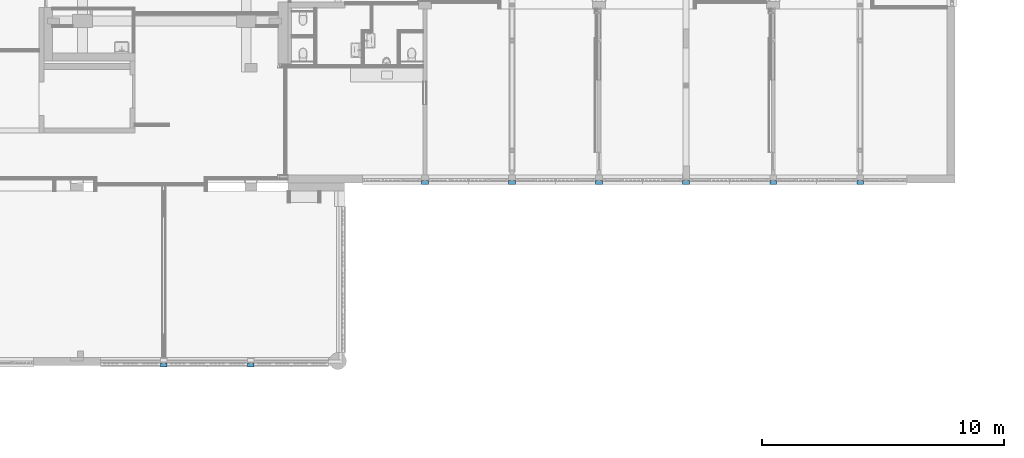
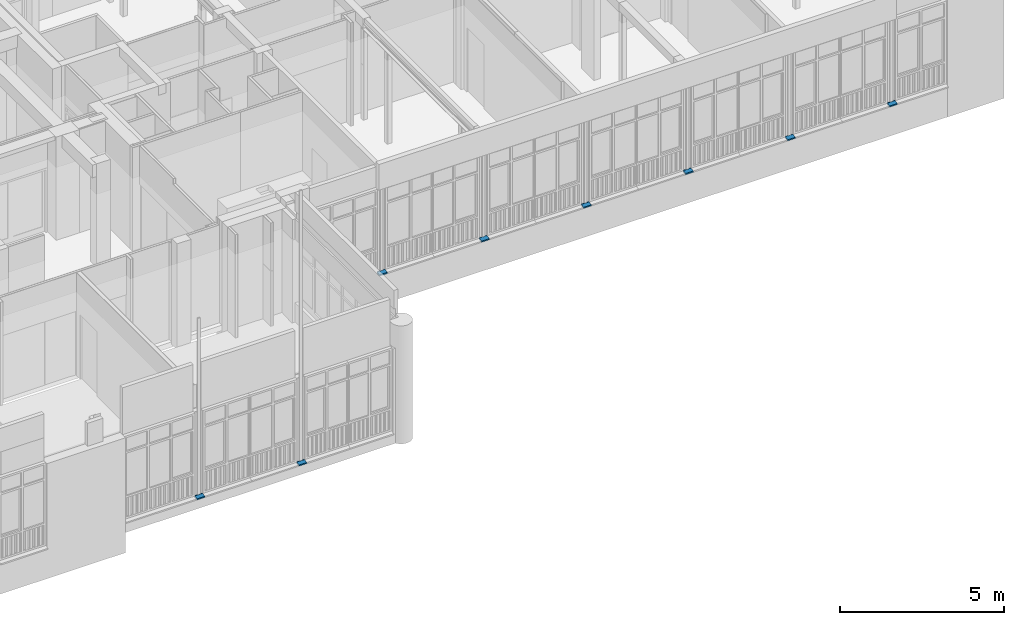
# One storey, part 69 of 135: 8 beams.
"""IFC2X3 building model written with IfcOpenShell, lengths in millimetres."""

from ifc_helpers import new_model, entity, si_unit, converted_unit, derived_unit, money_unit, direction, frame, origin_with_axes, place, context, subcontext, project, spatial, faceted_brep, material, type_object, element, save


model = new_model("IFC2X3")

# Units and contexts
model_context = context("Model", 3, precision=0.01, world=origin_with_axes(), true_north=direction((0.0, 1.0)))
body_context = subcontext(model_context, "Body", "Model", "MODEL_VIEW")
ifc_project = project(units=[si_unit("LENGTHUNIT", "METRE", prefix="MILLI"), si_unit("AREAUNIT", "SQUARE_METRE"), si_unit("VOLUMEUNIT", "CUBIC_METRE"), converted_unit("PLANEANGLEUNIT", "DEGREE", entity("IfcPlaneAngleMeasure", 0.0174532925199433), si_unit("PLANEANGLEUNIT", "RADIAN"), dimensions=[0, 0, 0, 0, 0, 0, 0]), money_unit("EUR"), converted_unit("TIMEUNIT", "Year", entity("IfcTimeMeasure", 31557600.0), si_unit("TIMEUNIT", "SECOND"), dimensions=[0, 0, 1, 0, 0, 0, 0]), si_unit("MASSUNIT", "GRAM", prefix="KILO"), si_unit("THERMODYNAMICTEMPERATUREUNIT", "DEGREE_CELSIUS"), si_unit("LUMINOUSINTENSITYUNIT", "LUMEN"), si_unit("ENERGYUNIT", "JOULE", prefix="MEGA"), derived_unit("THERMALCONDUCTANCEUNIT", [(si_unit("POWERUNIT", "WATT"), 1), (si_unit("LENGTHUNIT", "METRE"), -1), (si_unit("THERMODYNAMICTEMPERATUREUNIT", "KELVIN"), -1)]), derived_unit("SPECIFICHEATCAPACITYUNIT", [(si_unit("ENERGYUNIT", "JOULE"), 1), (si_unit("MASSUNIT", "GRAM", prefix="KILO"), -1), (si_unit("THERMODYNAMICTEMPERATUREUNIT", "KELVIN"), -1)]), derived_unit("MASSDENSITYUNIT", [(si_unit("MASSUNIT", "GRAM", prefix="KILO"), 1), (si_unit("VOLUMEUNIT", "CUBIC_METRE"), -1)])], contexts=[model_context])

# Site, building, storey
site_placement = place(None, origin_with_axes())
site = spatial("IfcSite", under=ifc_project, at=site_placement, Name="Site", CompositionType="ELEMENT")
building_placement = place(site_placement, origin_with_axes())
building = spatial("IfcBuilding", under=site, at=building_placement, Name="Naam gebouw", CompositionType="ELEMENT")
storey_placement = place(building_placement, origin_with_axes())
storey = spatial("IfcBuildingStorey", under=building, at=storey_placement, Name="Begane grond N", CompositionType="ELEMENT", Elevation=0.0)

# Beams
ifc_material = material(Name="Beton gewapend prefab")
beam_type = type_object("IfcBeamType", Name="Onderdorpel 155 x 80", PredefinedType="BEAM")
for number, where, z_axis, x_axis, name in (
    (1, (46662.49999999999, 10730.91242510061, 0.0), (0.0, 0.0, 1.0), (0.0, -1.0, 0.0), "_Balk-x"),
    (2, (50262.49999999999, 10730.91242510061, 0.0), (0.0, 0.0, 1.0), (0.0, -1.0, 0.0), "_Balk-x"),
):
    element("IfcBeam", number, at=place(storey_placement, frame(where, z_axis=z_axis, x_axis=x_axis)), inside=storey, type_object=beam_type, material=ifc_material, Name=name, ObjectType="BEAM", context=body_context, shape_type="Brep", body=[
        faceted_brep([(-35.00000000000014, 0.0, -79.99999999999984), (-35.00000000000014, 275.0000000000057, -79.99999999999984), (85.00000000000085, 275.0000000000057, -79.9999999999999), (85.00000000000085, 0.0, -79.9999999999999), (-35.00000000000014, 0.0, 0.0), (-35.00000000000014, 275.0000000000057, 0.0), (-19.99999999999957, 275.0000000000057, 0.0), (-20.00000000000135, 275.0000000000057, -9.99999999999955), (120.000000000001, 275.0000000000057, -34.99999999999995), (120.000000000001, 275.0000000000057, -79.9999999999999), (105.0000000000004, 275.0000000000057, -79.9999999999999), (102.0710678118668, 275.0000000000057, -72.92893218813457), (95.00000000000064, 275.0000000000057, -70.0000000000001), (87.92893218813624, 275.0000000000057, -72.92893218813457), (87.92893218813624, 0.0, -72.92893218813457), (95.00000000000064, 0.0, -70.0000000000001), (102.0710678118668, 0.0, -72.92893218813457), (105.0000000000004, 0.0, -79.9999999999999), (120.000000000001, 0.0, -79.9999999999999), (120.000000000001, 0.0, -34.99999999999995), (-20.00000000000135, 0.0, -9.99999999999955), (-19.99999999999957, 0.0, 0.0)], [[[0, 1, 2, 3]], [[4, 5, 1, 0]], [[2, 1, 5, 6, 7, 8, 9, 10, 11, 12, 13]], [[3, 2, 13, 14]], [[4, 0, 3, 14, 15, 16, 17, 18, 19, 20, 21]], [[21, 6, 5, 4]], [[20, 7, 6, 21]], [[19, 8, 7, 20]], [[18, 9, 8, 19]], [[17, 10, 9, 18]], [[16, 11, 10, 17]], [[15, 12, 11, 16]], [[14, 13, 12, 15]]]),
    ])
for number, where, z_axis, x_axis, name in (
    (3, (25062.4496505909, 3185.668707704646, 0.0), (0.0, 0.0, 1.0), (0.0, -1.0, 0.0), "_Balk-x"),
    (4, (28662.53780894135, 3185.668707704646, 0.0), (0.0, 0.0, 1.0), (0.0, -1.0, 0.0), "_Balk-x"),
):
    element("IfcBeam", number, at=place(storey_placement, frame(where, z_axis=z_axis, x_axis=x_axis)), inside=storey, type_object=beam_type, material=ifc_material, Name=name, ObjectType="BEAM", context=body_context, shape_type="Brep", body=[
        faceted_brep([(-35.00000000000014, 0.0, -79.99999999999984), (-35.00000000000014, 275.0000000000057, -79.99999999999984), (85.00000000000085, 275.0000000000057, -79.9999999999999), (85.00000000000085, 0.0, -79.9999999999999), (-35.00000000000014, 0.0, 0.0), (-35.00000000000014, 275.0000000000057, 0.0), (-20.00000000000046, 275.0000000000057, 0.0), (-20.00000000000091, 275.0000000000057, -9.99999999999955), (120.0000000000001, 275.0000000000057, -34.99999999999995), (120.0000000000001, 275.0000000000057, -79.9999999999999), (105.0000000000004, 275.0000000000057, -79.9999999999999), (102.0710678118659, 275.0000000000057, -72.92893218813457), (95.00000000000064, 275.0000000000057, -70.0000000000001), (87.92893218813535, 275.0000000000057, -72.92893218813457), (87.92893218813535, 0.0, -72.92893218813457), (95.00000000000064, 0.0, -70.0000000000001), (102.0710678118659, 0.0, -72.92893218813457), (105.0000000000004, 0.0, -79.9999999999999), (120.0000000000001, 0.0, -79.9999999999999), (120.0000000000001, 0.0, -34.99999999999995), (-20.00000000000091, 0.0, -9.99999999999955), (-20.00000000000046, 0.0, 0.0)], [[[0, 1, 2, 3]], [[4, 5, 1, 0]], [[2, 1, 5, 6, 7, 8, 9, 10, 11, 12, 13]], [[3, 2, 13, 14]], [[4, 0, 3, 14, 15, 16, 17, 18, 19, 20, 21]], [[21, 6, 5, 4]], [[20, 7, 6, 21]], [[19, 8, 7, 20]], [[18, 9, 8, 19]], [[17, 10, 9, 18]], [[16, 11, 10, 17]], [[15, 12, 11, 16]], [[14, 13, 12, 15]]]),
    ])
for number, where, z_axis, x_axis, name in (
    (5, (35862.49999999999, 10730.91242510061, 0.0), (0.0, 0.0, 1.0), (0.0, -1.0, 0.0), "_Balk-x"),
    (6, (39462.49999999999, 10730.91242510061, 0.0), (0.0, 0.0, 1.0), (0.0, -1.0, 0.0), "_Balk-x"),
    (7, (43062.49999999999, 10730.91242510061, 0.0), (0.0, 0.0, 1.0), (0.0, -1.0, 0.0), "_Balk-x"),
    (8, (53862.49999999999, 10730.91242510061, 0.0), (0.0, 0.0, 1.0), (0.0, -1.0, 0.0), "_Balk-x"),
):
    element("IfcBeam", number, at=place(storey_placement, frame(where, z_axis=z_axis, x_axis=x_axis)), inside=storey, type_object=beam_type, material=ifc_material, Name=name, ObjectType="BEAM", context=body_context, shape_type="Brep", body=[
        faceted_brep([(-35.00000000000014, 0.0, -79.99999999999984), (-35.00000000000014, 275.0000000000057, -79.99999999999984), (85.00000000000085, 275.0000000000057, -79.9999999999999), (85.00000000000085, 0.0, -79.9999999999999), (-35.00000000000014, 0.0, 0.0), (-35.00000000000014, 275.0000000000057, 0.0), (-19.99999999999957, 275.0000000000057, 0.0), (-20.00000000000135, 275.0000000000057, -9.99999999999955), (120.000000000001, 275.0000000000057, -34.99999999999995), (120.000000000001, 275.0000000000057, -79.9999999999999), (105.0000000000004, 275.0000000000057, -79.9999999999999), (102.0710678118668, 275.0000000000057, -72.92893218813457), (95.00000000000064, 275.0000000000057, -70.0000000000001), (87.92893218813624, 275.0000000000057, -72.92893218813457), (87.92893218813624, 0.0, -72.92893218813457), (95.00000000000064, 0.0, -70.0000000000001), (102.0710678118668, 0.0, -72.92893218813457), (105.0000000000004, 0.0, -79.9999999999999), (120.000000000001, 0.0, -79.9999999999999), (120.000000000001, 0.0, -34.99999999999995), (-20.00000000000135, 0.0, -9.99999999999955), (-19.99999999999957, 0.0, 0.0)], [[[0, 1, 2, 3]], [[4, 5, 1, 0]], [[2, 1, 5, 6, 7, 8, 9, 10, 11, 12, 13]], [[3, 2, 13, 14]], [[4, 0, 3, 14, 15, 16, 17, 18, 19, 20, 21]], [[21, 6, 5, 4]], [[20, 7, 6, 21]], [[19, 8, 7, 20]], [[18, 9, 8, 19]], [[17, 10, 9, 18]], [[16, 11, 10, 17]], [[15, 12, 11, 16]], [[14, 13, 12, 15]]]),
    ])

save(model, "model.ifc")
